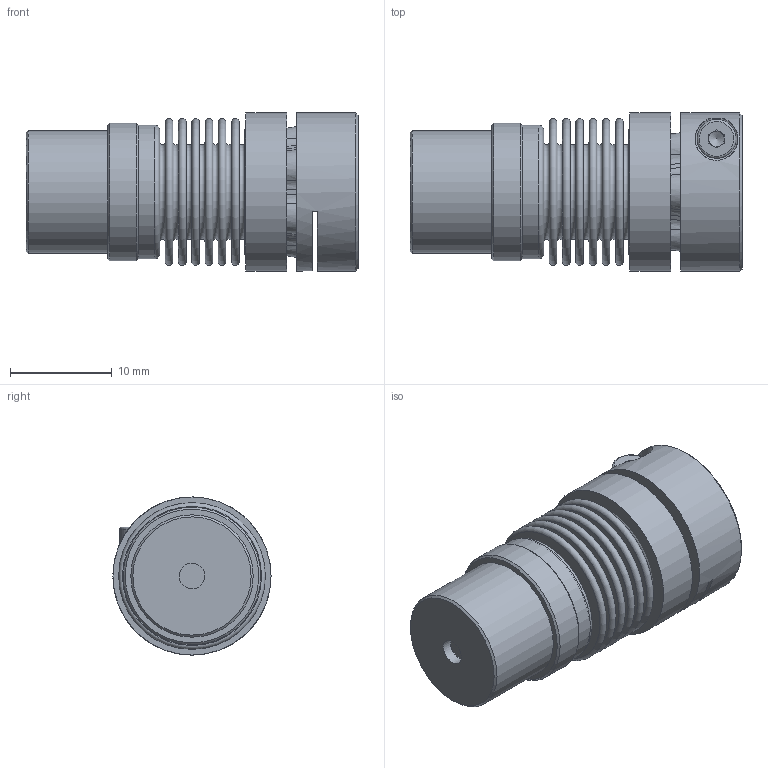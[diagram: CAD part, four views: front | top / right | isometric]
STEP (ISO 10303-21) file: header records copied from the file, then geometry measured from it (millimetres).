
FILE_DESCRIPTION( ( 'KBE1/14 - N7H8 - N14H7 - 98 Sh' ), '1' );
FILE_NAME( 'K:/Konstruktion/Fertigungszeichnungen/Metallbalgkupplung/KB3P/5-10/KB3P-10-30.stp', '14.12.2015', ( 'KBK-Antriebstechnik' ), ( 'KBK-Antriebstechnik' ), 'PSStep 16.0.42', 'Solid Edge St6', ' ' );
FILE_SCHEMA( ( 'AUTOMOTIVE_DESIGN { 1 0 10303 214 1 1 1 1 }' ) );
Length unit declared in the file: millimetre
Products named in the file (7): Assem1; Socket Head Cap Screw_DIN_DIN 912 M2 x 8 --- 8N_5; SN10; Stecknabe KB2P-10; Balgaufnahme KB2P-10_für Step; BK10_Standard_0; ISO EN DIN 4762 M3x12
Assembly tree (6 placements, depth 2):
  Assem1
    Socket Head Cap Screw_DIN_DIN 912 M2 x 8 --- 8N_5
    SN10
    Stecknabe KB2P-10
    Balgaufnahme KB2P-10_für Step
    BK10_Standard_0
    ISO EN DIN 4762 M3x12
Bounding box: 32.55 x 15.5 x 15.5 mm (x, y, z)
Volume: 3645.2 mm3; surface area: 6108.1 mm2
Topology: 6 solids, 6 shells, 189 faces, 395 edges, 254 vertices
Faces by surface type: plane 73, cone 59, torus 35, cylinder 22
Full cylindrical faces by diameter (mm): 1.567 x1, 2 x1, 2.2 x1, 2.5 x1, 2.98 x1, 3 x3, 3.8 x1, 5 x1, 12 x1, 12.9 x3, 13.1 x2, 13.5 x1, 15.5 x2
Entity records: 6531 total; most frequent: CARTESIAN_POINT 946, DIRECTION 907, ORIENTED_EDGE 646, AXIS2_PLACEMENT_3D 410, EDGE_CURVE 323, EDGE_LOOP 299, VERTEX_POINT 257, FACE_OUTER_BOUND 243
